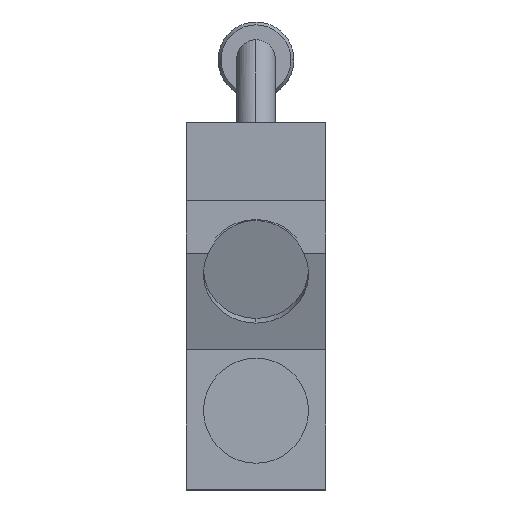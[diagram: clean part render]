
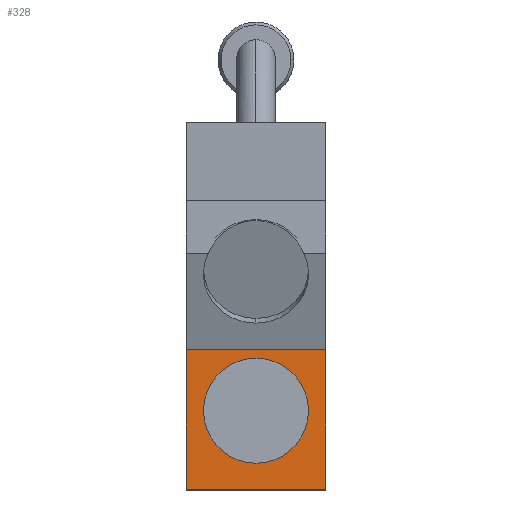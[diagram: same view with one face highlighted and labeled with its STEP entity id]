
A CAD part, top view. The second image highlights one B-rep face of the part: STEP entity #328.
In plain terms, the highlighted planar face has unit normal (0, 0, 1).
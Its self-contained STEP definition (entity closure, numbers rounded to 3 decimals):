
#91 = DIRECTION ( 'NONE',  ( 0., 0., -1. ) ) ;
#92 = CARTESIAN_POINT ( 'NONE',  ( 52.86, 8., -2. ) ) ;
#93 = AXIS2_PLACEMENT_3D ( 'NONE', #92, #91, #157 ) ;
#94 = PLANE ( 'NONE',  #93 ) ;
#95 = FACE_OUTER_BOUND ( 'NONE', #308, .T. ) ;
#96 = FACE_BOUND ( 'NONE', #329, .T. ) ;
#97 = DIRECTION ( 'NONE',  ( -1., 0., 0. ) ) ;
#98 = VECTOR ( 'NONE', #97, 1000. ) ;
#99 = CARTESIAN_POINT ( 'NONE',  ( 52.86, 8., -2. ) ) ;
#100 = LINE ( 'NONE', #99, #98 ) ;
#152 = DIRECTION ( 'NONE',  ( 1., 0., 0. ) ) ;
#153 = DIRECTION ( 'NONE',  ( 0., 0., 1. ) ) ;
#154 = CARTESIAN_POINT ( 'NONE',  ( 0., 4.5, -2. ) ) ;
#155 = AXIS2_PLACEMENT_3D ( 'NONE', #154, #153, #152 ) ;
#156 = CIRCLE ( 'NONE', #155, 3. ) ;
#157 = DIRECTION ( 'NONE',  ( 0., 1., 0. ) ) ;
#266 = DIRECTION ( 'NONE',  ( -1., 0., 0. ) ) ;
#267 = VECTOR ( 'NONE', #266, 1000. ) ;
#268 = CARTESIAN_POINT ( 'NONE',  ( 52.86, 0., -2. ) ) ;
#269 = LINE ( 'NONE', #268, #267 ) ;
#308 = EDGE_LOOP ( 'NONE', ( #309, #310, #311, #312 ) ) ;
#309 = ORIENTED_EDGE ( 'NONE', *, *, #1395, .F. ) ;
#310 = ORIENTED_EDGE ( 'NONE', *, *, #326, .T. ) ;
#311 = ORIENTED_EDGE ( 'NONE', *, *, #433, .T. ) ;
#312 = ORIENTED_EDGE ( 'NONE', *, *, #413, .F. ) ;
#326 = EDGE_CURVE ( 'NONE', #1389, #434, #100, .T. ) ;
#328 = ADVANCED_FACE ( 'NONE', ( #96, #95 ), #94, .F. ) ;
#329 = EDGE_LOOP ( 'NONE', ( #330, #332 ) ) ;
#330 = ORIENTED_EDGE ( 'NONE', *, *, #331, .F. ) ;
#331 = EDGE_CURVE ( 'NONE', #896, #893, #156, .T. ) ;
#332 = ORIENTED_EDGE ( 'NONE', *, *, #895, .F. ) ;
#413 = EDGE_CURVE ( 'NONE', #1379, #431, #269, .T. ) ;
#431 = VERTEX_POINT ( 'NONE', #925 ) ;
#433 = EDGE_CURVE ( 'NONE', #434, #431, #924, .T. ) ;
#434 = VERTEX_POINT ( 'NONE', #920 ) ;
#893 = VERTEX_POINT ( 'NONE', #2377 ) ;
#895 = EDGE_CURVE ( 'NONE', #893, #896, #2376, .T. ) ;
#896 = VERTEX_POINT ( 'NONE', #2371 ) ;
#920 = CARTESIAN_POINT ( 'NONE',  ( -4., 8., -2. ) ) ;
#921 = DIRECTION ( 'NONE',  ( 0., -1., 0. ) ) ;
#922 = VECTOR ( 'NONE', #921, 1000. ) ;
#923 = CARTESIAN_POINT ( 'NONE',  ( -4., 21., -2. ) ) ;
#924 = LINE ( 'NONE', #923, #922 ) ;
#925 = CARTESIAN_POINT ( 'NONE',  ( -4., 0., -2. ) ) ;
#1379 = VERTEX_POINT ( 'NONE', #2391 ) ;
#1389 = VERTEX_POINT ( 'NONE', #2424 ) ;
#1395 = EDGE_CURVE ( 'NONE', #1389, #1379, #1430, .T. ) ;
#1427 = DIRECTION ( 'NONE',  ( 0., -1., 0. ) ) ;
#1428 = VECTOR ( 'NONE', #1427, 1000. ) ;
#1429 = CARTESIAN_POINT ( 'NONE',  ( 4., 21., -2. ) ) ;
#1430 = LINE ( 'NONE', #1429, #1428 ) ;
#2371 = CARTESIAN_POINT ( 'NONE',  ( 3., 4.5, -2. ) ) ;
#2372 = DIRECTION ( 'NONE',  ( 1., 0., 0. ) ) ;
#2373 = DIRECTION ( 'NONE',  ( 0., 0., 1. ) ) ;
#2374 = CARTESIAN_POINT ( 'NONE',  ( 0., 4.5, -2. ) ) ;
#2375 = AXIS2_PLACEMENT_3D ( 'NONE', #2374, #2373, #2372 ) ;
#2376 = CIRCLE ( 'NONE', #2375, 3. ) ;
#2377 = CARTESIAN_POINT ( 'NONE',  ( -3., 4.5, -2. ) ) ;
#2391 = CARTESIAN_POINT ( 'NONE',  ( 4., 0., -2. ) ) ;
#2424 = CARTESIAN_POINT ( 'NONE',  ( 4., 8., -2. ) ) ;
